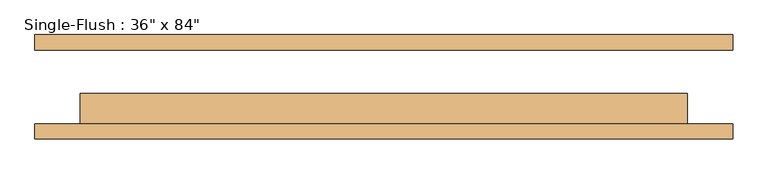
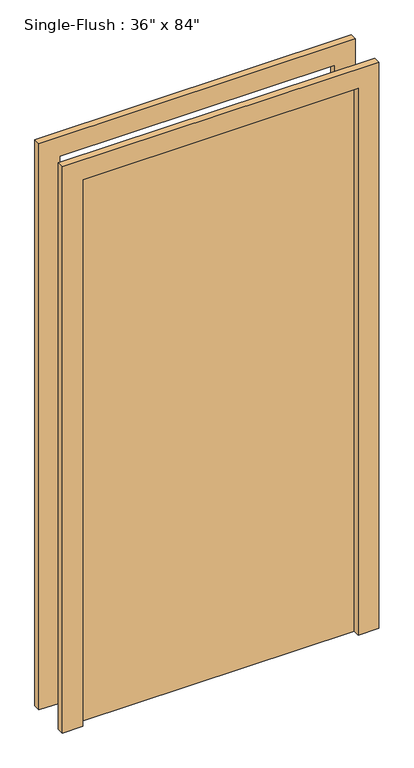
"""IFC4 building model written with IfcOpenShell, lengths in millimetres: door geometry."""

from ifc_helpers import new_model, si_unit, frame, origin, origin_with_axes, place, context, project, spatial, polyline, outline, extrude, source, transform, mapped, element, save


def door_f5ce0651(model_context):
    return source(origin(), model_context, "Body", "SweptSolid", [
        extrude(outline(polyline([(2209.8, -584.2), (0.0, -584.2), (0.0, -508.0), (2133.6, -508.0), (2133.6, 508.0), (0.0, 508.0), (0.0, 584.2), (2209.8, 584.2), (2209.8, -584.2)])), frame((0.0, -87.3125, 0.0), z_axis=(0.0, 1.0, 0.0), x_axis=(0.0, 0.0, 1.0)), (0.0, 0.0, 1.0), 25.4),
        extrude(outline(polyline([(2209.8, 584.2), (2209.8, -584.2), (0.0, -584.2), (0.0, -508.0), (2133.6, -508.0), (2133.6, 508.0), (0.0, 508.0), (0.0, 584.2), (2209.8, 584.2)])), frame((0.0, 61.9125, 0.0), z_axis=(0.0, 1.0, 0.0), x_axis=(0.0, 0.0, 1.0)), (0.0, 0.0, 1.0), 25.4),
        extrude(outline(polyline([(508.0, -11.1125), (508.0, -61.9125), (-508.0, -61.9125), (-508.0, -11.1125), (508.0, -11.1125)])), origin_with_axes(), (0.0, 0.0, 1.0), 2133.6),
    ])


if __name__ == "__main__":
    model = new_model("IFC4")
    model_context = context("Model", 3, world=origin())
    ifc_project = project(units=[si_unit("LENGTHUNIT", "METRE", prefix="MILLI")], contexts=[model_context])
    site = spatial("IfcSite", under=ifc_project)
    building = spatial("IfcBuilding", under=site)
    placement = place(None, origin())
    door_shape = door_f5ce0651(model_context)
    element("IfcDoor", 1, ObjectType="Single-Flush : 36\" x 84\"", at=placement, inside=building, context=model_context, shape_type="MappedRepresentation", body=[
        mapped(door_shape, transform((0.0, 0.0, 0.0), x_axis=(1.0, 0.0, 0.0), y_axis=(0.0, 1.0, 0.0), z_axis=(0.0, 0.0, 1.0))),
    ])
    save(model, "model.ifc")
